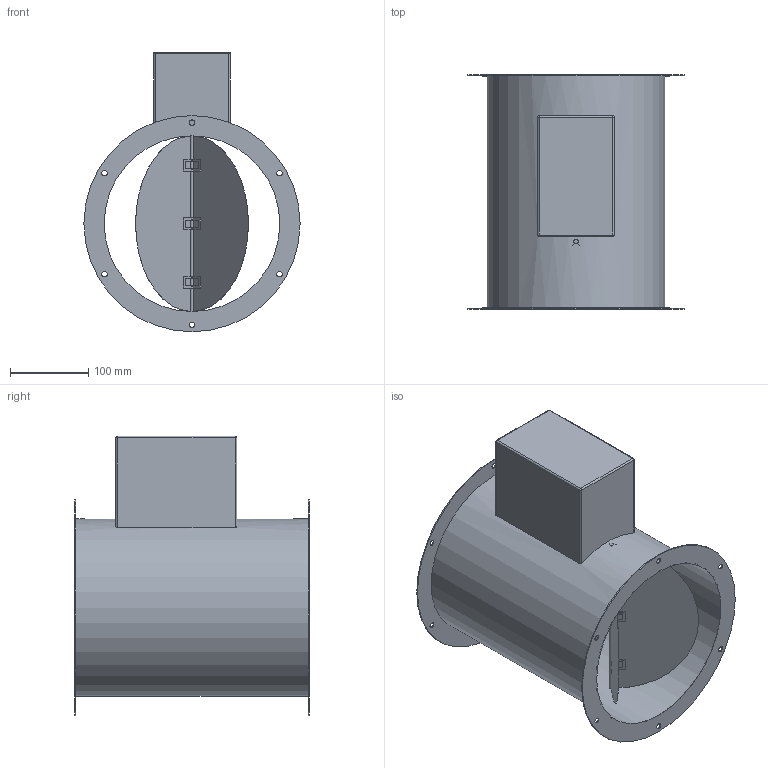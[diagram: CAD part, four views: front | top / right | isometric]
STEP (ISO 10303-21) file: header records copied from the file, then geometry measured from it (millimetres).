
FILE_DESCRIPTION(/* description */ (''),/* implementation_level */ '2;1');
FILE_NAME(/* name */ 'Z:\Output\RVM_225-DRVM_200-02575-001.stp',/* time_stamp */ '2020-06-26T09:52:52+02:00',/* author */ ('engineering1'),/* organization */ (''),/* preprocessor_version */ 'ST-DEVELOPER v17.2',/* originating_system */ 'Autodesk Inventor 2019',/* authorisation */ '');
FILE_SCHEMA (('AUTOMOTIVE_DESIGN { 1 0 10303 214 3 1 1 }'));
Length unit declared in the file: millimetre
Products named in the file (1): RVM-1
Bounding box: 277 x 300.02 x 358.25 mm (x, y, z)
Volume: 1989487.6 mm3; surface area: 644379.2 mm2
Topology: 1 solids, 1 shells, 104 faces, 265 edges, 168 vertices
Faces by surface type: plane 73, cylinder 27, sphere 4
Full cylindrical faces by diameter (mm): 5.625 x1, 7 x12, 225 x1, 227.5 x1, 277 x2
Entity records: 3284 total; most frequent: CARTESIAN_POINT 656, ORIENTED_EDGE 530, DIRECTION 517, EDGE_CURVE 265, LINE 195, VECTOR 195, VERTEX_POINT 168, AXIS2_PLACEMENT_3D 161
